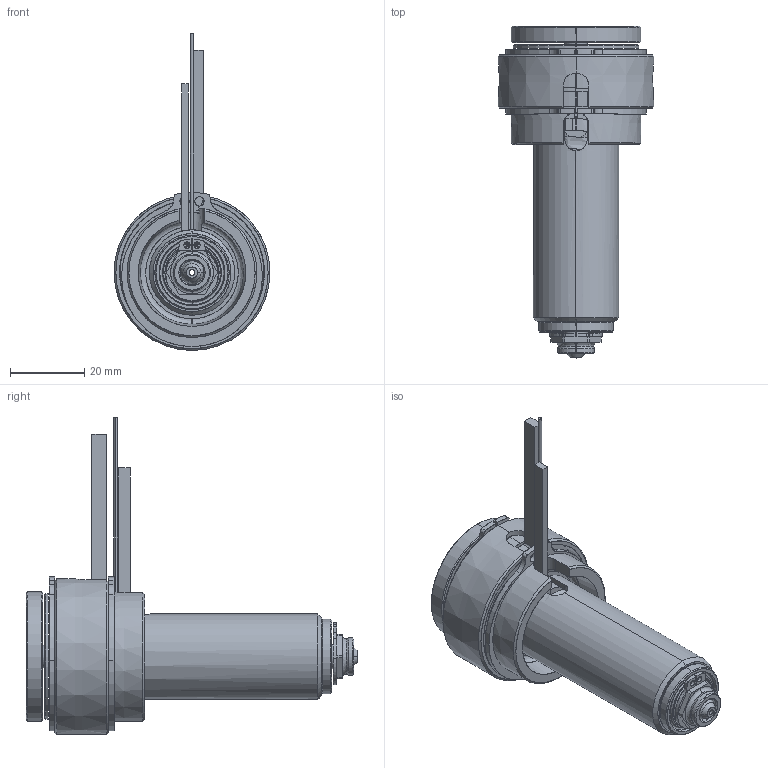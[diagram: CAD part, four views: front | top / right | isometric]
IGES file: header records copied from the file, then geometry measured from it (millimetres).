
Start section: SolidWorks IGES file using analytic representation for surfaces
Global section: file name: C:\Documents and Settings\ws-20\Desktop\TEM\UGER3551-S-A-0 [Øb-1.50  ØC-6.0].IGS; native system: SolidWorks 2012; preprocessor: SolidWorks 2012; author: ws-20; date: 120410.094208; units: millimetre
Bounding box: 42 x 89.4 x 85.4 mm (x, y, z)
Surface area: 31297.3 mm2 (no closed solid volume)
Topology: 0 solids, 0 shells, 212 faces, 3654 edges, 3654 vertices
Faces by surface type: revolution 136, bspline 76
